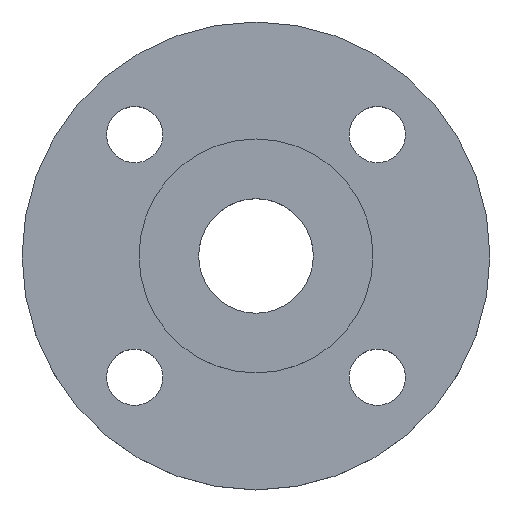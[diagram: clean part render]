
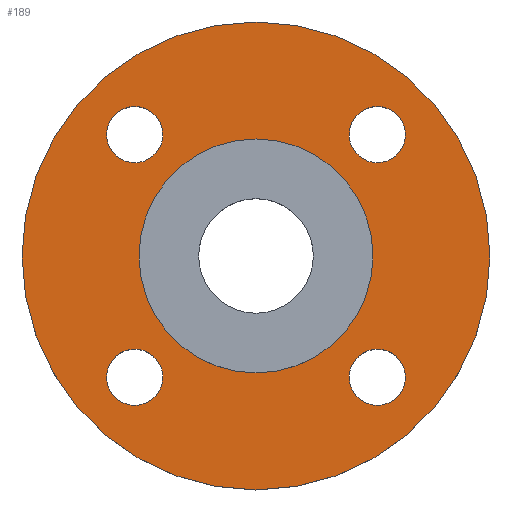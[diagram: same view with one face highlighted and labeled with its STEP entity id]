
A CAD part, top view. The second image highlights one B-rep face of the part: STEP entity #189.
In plain terms, the highlighted planar face has unit normal (0, 0, 1).
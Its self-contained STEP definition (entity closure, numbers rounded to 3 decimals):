
#6 = AXIS2_PLACEMENT_3D ( 'NONE', #373, #375, #378 ) ;
#7 = CIRCLE ( 'NONE', #251, 9. ) ;
#9 = AXIS2_PLACEMENT_3D ( 'NONE', #371, #384, #369 ) ;
#43 = AXIS2_PLACEMENT_3D ( 'NONE', #395, #394, #393 ) ;
#46 = AXIS2_PLACEMENT_3D ( 'NONE', #287, #286, #285 ) ;
#48 = CIRCLE ( 'NONE', #46, 9. ) ;
#63 = EDGE_CURVE ( 'NONE', #693, #684, #7, .T. ) ;
#66 = CARTESIAN_POINT ( 'NONE',  ( -29.891, 38.891, -4.5 ) ) ;
#67 = AXIS2_PLACEMENT_3D ( 'NONE', #315, #314, #313 ) ;
#68 = CIRCLE ( 'NONE', #67, 75. ) ;
#70 = CIRCLE ( 'NONE', #105, 9. ) ;
#74 = CARTESIAN_POINT ( 'NONE',  ( -47.891, 38.891, -4.5 ) ) ;
#77 = CARTESIAN_POINT ( 'NONE',  ( -75., 0., -4.5 ) ) ;
#79 = CARTESIAN_POINT ( 'NONE',  ( -47.891, -38.891, -4.5 ) ) ;
#95 = CARTESIAN_POINT ( 'NONE',  ( 29.891, 38.891, -4.5 ) ) ;
#100 = AXIS2_PLACEMENT_3D ( 'NONE', #154, #667, #354 ) ;
#103 = CIRCLE ( 'NONE', #100, 37.5 ) ;
#105 = AXIS2_PLACEMENT_3D ( 'NONE', #386, #385, #357 ) ;
#107 = CARTESIAN_POINT ( 'NONE',  ( 47.891, 38.891, -4.5 ) ) ;
#111 = CARTESIAN_POINT ( 'NONE',  ( -29.891, -38.891, -4.5 ) ) ;
#112 = CARTESIAN_POINT ( 'NONE',  ( 29.891, -38.891, -4.5 ) ) ;
#118 = CIRCLE ( 'NONE', #43, 9. ) ;
#154 = CARTESIAN_POINT ( 'NONE',  ( 0., 0., -4.5 ) ) ;
#164 = CARTESIAN_POINT ( 'NONE',  ( 75., 0., -4.5 ) ) ;
#166 = CARTESIAN_POINT ( 'NONE',  ( 37.5, 0., -4.5 ) ) ;
#172 = CARTESIAN_POINT ( 'NONE',  ( -37.5, 0., -4.5 ) ) ;
#175 = CARTESIAN_POINT ( 'NONE',  ( 47.891, -38.891, -4.5 ) ) ;
#184 = DIRECTION ( 'NONE',  ( -1., 0., 0. ) ) ;
#185 = DIRECTION ( 'NONE',  ( 0., 0., -1. ) ) ;
#186 = CARTESIAN_POINT ( 'NONE',  ( 0., 0., -4.5 ) ) ;
#189 = ADVANCED_FACE ( 'NONE', ( #424, #423, #422, #421, #420, #419 ), #418, .T. ) ;
#191 = DIRECTION ( 'NONE',  ( 1., 0., 0. ) ) ;
#192 = DIRECTION ( 'NONE',  ( 0., 0., -1. ) ) ;
#193 = CARTESIAN_POINT ( 'NONE',  ( -38.891, -38.891, -4.5 ) ) ;
#195 = AXIS2_PLACEMENT_3D ( 'NONE', #417, #416, #415 ) ;
#201 = CIRCLE ( 'NONE', #6, 9. ) ;
#242 = CARTESIAN_POINT ( 'NONE',  ( 38.891, 38.891, -4.5 ) ) ;
#244 = DIRECTION ( 'NONE',  ( 0., 0., -1. ) ) ;
#245 = EDGE_CURVE ( 'NONE', #656, #561, #118, .T. ) ;
#246 = DIRECTION ( 'NONE',  ( 1., 0., 0. ) ) ;
#250 = AXIS2_PLACEMENT_3D ( 'NONE', #193, #192, #191 ) ;
#251 = AXIS2_PLACEMENT_3D ( 'NONE', #468, #467, #466 ) ;
#260 = CIRCLE ( 'NONE', #337, 37.5 ) ;
#261 = CIRCLE ( 'NONE', #264, 9. ) ;
#264 = AXIS2_PLACEMENT_3D ( 'NONE', #242, #244, #246 ) ;
#266 = CIRCLE ( 'NONE', #277, 9. ) ;
#277 = AXIS2_PLACEMENT_3D ( 'NONE', #364, #365, #368 ) ;
#285 = DIRECTION ( 'NONE',  ( 1., 0., 0. ) ) ;
#286 = DIRECTION ( 'NONE',  ( 0., 0., -1. ) ) ;
#287 = CARTESIAN_POINT ( 'NONE',  ( -38.891, 38.891, -4.5 ) ) ;
#300 = EDGE_CURVE ( 'NONE', #717, #703, #70, .T. ) ;
#302 = EDGE_CURVE ( 'NONE', #545, #671, #103, .T. ) ;
#313 = DIRECTION ( 'NONE',  ( -1., 0., 0. ) ) ;
#314 = DIRECTION ( 'NONE',  ( 0., 0., -1. ) ) ;
#315 = CARTESIAN_POINT ( 'NONE',  ( 0., 0., -4.5 ) ) ;
#324 = EDGE_CURVE ( 'NONE', #548, #694, #68, .T. ) ;
#337 = AXIS2_PLACEMENT_3D ( 'NONE', #186, #185, #184 ) ;
#340 = EDGE_CURVE ( 'NONE', #703, #717, #48, .T. ) ;
#354 = DIRECTION ( 'NONE',  ( -1., 0., 0. ) ) ;
#357 = DIRECTION ( 'NONE',  ( 1., 0., 0. ) ) ;
#364 = CARTESIAN_POINT ( 'NONE',  ( 38.891, -38.891, -4.5 ) ) ;
#365 = DIRECTION ( 'NONE',  ( 0., 0., -1. ) ) ;
#368 = DIRECTION ( 'NONE',  ( 1., 0., 0. ) ) ;
#369 = DIRECTION ( 'NONE',  ( -1., 0., 0. ) ) ;
#371 = CARTESIAN_POINT ( 'NONE',  ( 0., 0., -4.5 ) ) ;
#373 = CARTESIAN_POINT ( 'NONE',  ( 38.891, 38.891, -4.5 ) ) ;
#375 = DIRECTION ( 'NONE',  ( 0., 0., -1. ) ) ;
#378 = DIRECTION ( 'NONE',  ( 1., 0., 0. ) ) ;
#384 = DIRECTION ( 'NONE',  ( 0., 0., -1. ) ) ;
#385 = DIRECTION ( 'NONE',  ( 0., 0., -1. ) ) ;
#386 = CARTESIAN_POINT ( 'NONE',  ( -38.891, 38.891, -4.5 ) ) ;
#393 = DIRECTION ( 'NONE',  ( 1., 0., 0. ) ) ;
#394 = DIRECTION ( 'NONE',  ( 0., 0., -1. ) ) ;
#395 = CARTESIAN_POINT ( 'NONE',  ( 38.891, -38.891, -4.5 ) ) ;
#415 = DIRECTION ( 'NONE',  ( 1., 0., 0. ) ) ;
#416 = DIRECTION ( 'NONE',  ( 0., 0., 1. ) ) ;
#417 = CARTESIAN_POINT ( 'NONE',  ( 37.5, 0., -4.5 ) ) ;
#418 = PLANE ( 'NONE',  #195 ) ;
#419 = FACE_OUTER_BOUND ( 'NONE', #556, .T. ) ;
#420 = FACE_BOUND ( 'NONE', #714, .T. ) ;
#421 = FACE_BOUND ( 'NONE', #674, .T. ) ;
#422 = FACE_BOUND ( 'NONE', #683, .T. ) ;
#423 = FACE_BOUND ( 'NONE', #562, .T. ) ;
#424 = FACE_BOUND ( 'NONE', #619, .T. ) ;
#433 = EDGE_CURVE ( 'NONE', #684, #693, #687, .T. ) ;
#446 = EDGE_CURVE ( 'NONE', #671, #545, #260, .T. ) ;
#464 = EDGE_CURVE ( 'NONE', #688, #692, #261, .T. ) ;
#466 = DIRECTION ( 'NONE',  ( 1., 0., 0. ) ) ;
#467 = DIRECTION ( 'NONE',  ( 0., 0., -1. ) ) ;
#468 = CARTESIAN_POINT ( 'NONE',  ( -38.891, -38.891, -4.5 ) ) ;
#473 = EDGE_CURVE ( 'NONE', #561, #656, #266, .T. ) ;
#482 = CIRCLE ( 'NONE', #9, 75. ) ;
#545 = VERTEX_POINT ( 'NONE', #166 ) ;
#548 = VERTEX_POINT ( 'NONE', #164 ) ;
#556 = EDGE_LOOP ( 'NONE', ( #645, #646 ) ) ;
#561 = VERTEX_POINT ( 'NONE', #112 ) ;
#562 = EDGE_LOOP ( 'NONE', ( #636, #637 ) ) ;
#619 = EDGE_LOOP ( 'NONE', ( #633, #634 ) ) ;
#626 = EDGE_CURVE ( 'NONE', #692, #688, #201, .T. ) ;
#632 = EDGE_CURVE ( 'NONE', #694, #548, #482, .T. ) ;
#633 = ORIENTED_EDGE ( 'NONE', *, *, #245, .T. ) ;
#634 = ORIENTED_EDGE ( 'NONE', *, *, #473, .T. ) ;
#636 = ORIENTED_EDGE ( 'NONE', *, *, #433, .T. ) ;
#637 = ORIENTED_EDGE ( 'NONE', *, *, #63, .T. ) ;
#638 = ORIENTED_EDGE ( 'NONE', *, *, #300, .T. ) ;
#639 = ORIENTED_EDGE ( 'NONE', *, *, #340, .T. ) ;
#640 = ORIENTED_EDGE ( 'NONE', *, *, #626, .T. ) ;
#641 = ORIENTED_EDGE ( 'NONE', *, *, #464, .T. ) ;
#642 = ORIENTED_EDGE ( 'NONE', *, *, #446, .T. ) ;
#644 = ORIENTED_EDGE ( 'NONE', *, *, #302, .T. ) ;
#645 = ORIENTED_EDGE ( 'NONE', *, *, #324, .F. ) ;
#646 = ORIENTED_EDGE ( 'NONE', *, *, #632, .F. ) ;
#656 = VERTEX_POINT ( 'NONE', #175 ) ;
#667 = DIRECTION ( 'NONE',  ( 0., 0., -1. ) ) ;
#671 = VERTEX_POINT ( 'NONE', #172 ) ;
#674 = EDGE_LOOP ( 'NONE', ( #640, #641 ) ) ;
#683 = EDGE_LOOP ( 'NONE', ( #638, #639 ) ) ;
#684 = VERTEX_POINT ( 'NONE', #111 ) ;
#687 = CIRCLE ( 'NONE', #250, 9. ) ;
#688 = VERTEX_POINT ( 'NONE', #95 ) ;
#692 = VERTEX_POINT ( 'NONE', #107 ) ;
#693 = VERTEX_POINT ( 'NONE', #79 ) ;
#694 = VERTEX_POINT ( 'NONE', #77 ) ;
#703 = VERTEX_POINT ( 'NONE', #74 ) ;
#714 = EDGE_LOOP ( 'NONE', ( #642, #644 ) ) ;
#717 = VERTEX_POINT ( 'NONE', #66 ) ;
